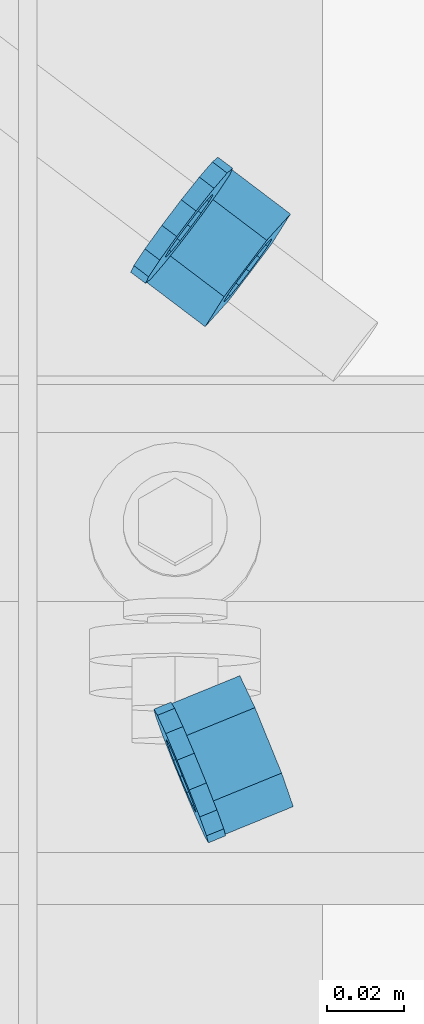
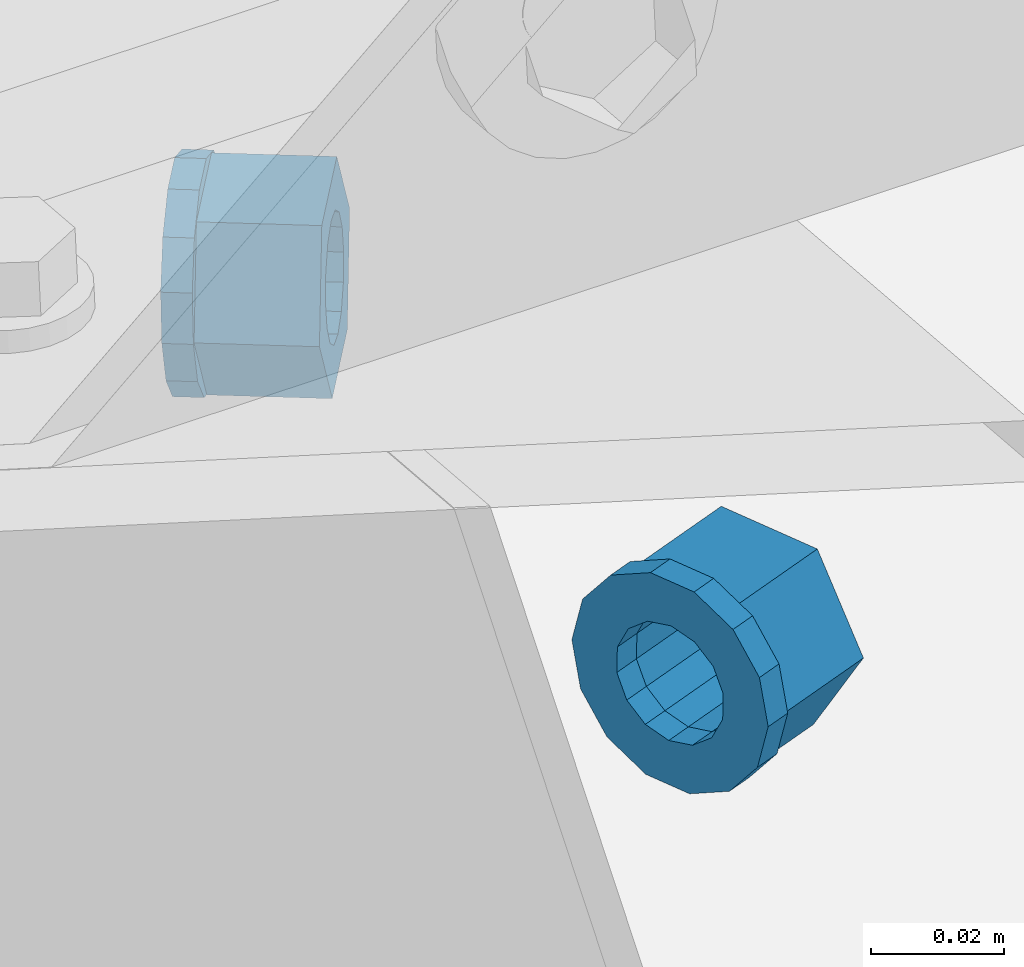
# One storey, part 46 of 185: 4 beams, 4 elements without a shape of their own.
"""IFC2X3 building model written with IfcOpenShell, lengths in millimetres."""

import ifcopenshell
import ifcopenshell.guid

model = None  # the IFC model being written
_history = None  # IfcOwnerHistory: only IFC2X3 demands one
_inside = {}  # id of a spatial element -> (the spatial element, [elements in it])
_under = {}  # id of a project, library or spatial element -> (it, [spatial elements below it])
_declared = {}  # id of a project -> (the project, [libraries it declares])
_typed = {}  # id of a type object -> (the type object, [elements of that type])
_made_of = {}  # id of a material, layer set ... -> (it, [elements and type objects made of it])


def new_model(schema):
    """Start an empty IFC model of exactly this schema.

    Asked for "IFC4X3", IfcOpenShell would pick the latest addendum, in which some entities
    have other attributes; the version numbers below select the first issue.
    IFC2X3 requires an IfcOwnerHistory on every rooted entity: one is made here for all.
    """
    global model, _history
    if schema == "IFC4X3":
        model = ifcopenshell.file(schema_version=(4, 3, 0, 0))
    else:
        model = ifcopenshell.file(schema=schema)
    _inside.clear()
    _under.clear()
    _declared.clear()
    _typed.clear()
    _made_of.clear()
    _history = None
    if model.schema == "IFC2X3":
        org = make("IfcOrganization", Name="unknown")
        user = make(
            "IfcPersonAndOrganization",
            ThePerson=make("IfcPerson", FamilyName="unknown"),
            TheOrganization=org,
        )
        app = make(
            "IfcApplication",
            ApplicationDeveloper=org,
            Version="unknown",
            ApplicationFullName="unknown",
            ApplicationIdentifier="unknown",
        )
        _history = make(
            "IfcOwnerHistory",
            OwningUser=user,
            OwningApplication=app,
            ChangeAction="ADDED",
            CreationDate=0,
        )
    return model


def make(cls, **values):
    """One entity of the class cls with the attributes given. An attribute that is None is left unset."""
    return model.create_entity(
        cls, **{name: value for name, value in values.items() if value is not None}
    )


def rooted(cls, **values):
    """An entity with a GlobalId (a new one), such as an element, a storey or a relation."""
    return make(cls, GlobalId=ifcopenshell.guid.new(), OwnerHistory=_history, **values)


def si_unit(unit_type, name, prefix=None):
    """IfcSIUnit, for example si_unit("LENGTHUNIT", "METRE", prefix="MILLI")."""
    return make("IfcSIUnit", UnitType=unit_type, Prefix=prefix, Name=name)


def assignment(units):
    """IfcUnitAssignment: the units of a project."""
    return None if units is None else make("IfcUnitAssignment", Units=units)


def point(xyz):
    """IfcCartesianPoint."""
    return None if xyz is None else make("IfcCartesianPoint", Coordinates=xyz)


def direction(xyz):
    """IfcDirection."""
    return None if xyz is None else make("IfcDirection", DirectionRatios=xyz)


def frame(location, z_axis=None, x_axis=None):
    """IfcAxis2Placement3D, a coordinate frame: its origin and axes. An axis left out is left unset."""
    return make(
        "IfcAxis2Placement3D",
        Location=point(location),
        Axis=direction(z_axis),
        RefDirection=direction(x_axis),
    )


def origin_with_axes():
    """The frame at (0, 0, 0) with the z axis (0, 0, 1) and the x axis (1, 0, 0) written out."""
    return frame((0.0, 0.0, 0.0), z_axis=(0.0, 0.0, 1.0), x_axis=(1.0, 0.0, 0.0))


def place(relative_to, where):
    """IfcLocalPlacement: puts the frame where relative to a parent placement (None: the world)."""
    return make(
        "IfcLocalPlacement", PlacementRelTo=relative_to, RelativePlacement=where
    )


def context(
    kind, dimensions, precision=None, world=None, true_north=None, identifier=None
):
    """IfcGeometricRepresentationContext, for example the 3D "Model" context."""
    return make(
        "IfcGeometricRepresentationContext",
        ContextIdentifier=identifier,
        ContextType=kind,
        CoordinateSpaceDimension=dimensions,
        Precision=precision,
        WorldCoordinateSystem=world,
        TrueNorth=true_north,
    )


def subcontext(parent, identifier, kind, view, scale=None):
    """IfcGeometricRepresentationSubContext, for example "Body" below "Model"."""
    return make(
        "IfcGeometricRepresentationSubContext",
        ContextIdentifier=identifier,
        ContextType=kind,
        ParentContext=parent,
        TargetScale=scale,
        TargetView=view,
    )


def project(units=None, contexts=None):
    """IfcProject with its units and contexts."""
    return rooted(
        "IfcProject",
        Name="project",
        RepresentationContexts=contexts,
        UnitsInContext=assignment(units),
    )


def spatial(cls, under=None, at=None, **own):
    """A site, building, storey or space (cls), placed at a placement, below another one or the project."""
    s = rooted(cls, ObjectPlacement=at, **own)
    if under is not None:
        _under.setdefault(under.id(), (under, []))[1].append(s)
    return s


def polyline(points):
    """IfcPolyline through the points."""
    return make("IfcPolyline", Points=[point(p) for p in points])


def outline(outer, holes=None, kind="AREA"):
    """IfcArbitraryClosedProfileDef: a profile drawn as a closed curve; with holes, ...WithVoids."""
    if holes is None:
        return make("IfcArbitraryClosedProfileDef", ProfileType=kind, OuterCurve=outer)
    return make(
        "IfcArbitraryProfileDefWithVoids",
        ProfileType=kind,
        OuterCurve=outer,
        InnerCurves=holes,
    )


def extrude(swept, where, along, depth):
    """IfcExtrudedAreaSolid: the profile swept, set in the frame where, extruded along a direction by depth."""
    return make(
        "IfcExtrudedAreaSolid",
        SweptArea=swept,
        Position=where,
        ExtrudedDirection=direction(along),
        Depth=depth,
    )


def shape(context_of_items, identifier, shape_type, items):
    """IfcShapeRepresentation: the items that make up one representation, for example the "Body"."""
    return make(
        "IfcShapeRepresentation",
        ContextOfItems=context_of_items,
        RepresentationIdentifier=identifier,
        RepresentationType=shape_type,
        Items=items,
    )


def material(Name=None, Category=None):
    """IfcMaterial."""
    return make("IfcMaterial", Name=Name, Category=Category)


def made_of(thing, what):
    """Note that an element or type object is made of a material, layer set ...; save() writes the relation."""
    if what is not None:
        _made_of.setdefault(what.id(), (what, []))[1].append(thing)
    return thing


def type_object(cls, material=None, **own):
    """A type object (cls), such as IfcWallType, which elements share."""
    return made_of(rooted(cls, **own), material)


def element(
    cls,
    number,
    at=None,
    inside=None,
    cuts=None,
    type_object=None,
    material=None,
    context=None,
    identifier="Body",
    shape_type=None,
    held_by="IfcProductDefinitionShape",
    body=None,
    shapes=None,
    **own,
):
    """One element of the class cls, such as IfcWall. Its Tag is "e" and its number.

    at: its placement. inside: the storey or other place that contains it. cuts: it is an
    opening in that element (IfcRelVoidsElement). A single representation is given by context,
    identifier, shape_type and body (its items); several are given by shapes. held_by: the class
    of the entity that holds the representations. save() writes the other relations.
    """
    e = rooted(cls, Tag="e%d" % number, ObjectPlacement=at, **own)
    if body is not None:
        shapes = [shape(context, identifier, shape_type, body)]
    if shapes is not None:
        e.Representation = make(held_by, Representations=shapes)
    if inside is not None:
        _inside.setdefault(inside.id(), (inside, []))[1].append(e)
    if cuts is not None:
        rooted(
            "IfcRelVoidsElement", RelatingBuildingElement=cuts, RelatedOpeningElement=e
        )
    if type_object is not None:
        _typed.setdefault(type_object.id(), (type_object, []))[1].append(e)
    return made_of(e, material)


def aggregate(whole, parts):
    """IfcRelAggregates: a whole, such as a stair, and the parts it consists of."""
    return rooted("IfcRelAggregates", RelatingObject=whole, RelatedObjects=parts)


def save(model, path):
    """Write the relations noted so far, then the file.

    IfcRelAggregates (storeys below a building ...), IfcRelContainedInSpatialStructure (elements
    in a storey), IfcRelDefinesByType, IfcRelAssociatesMaterial and IfcRelDeclares: one each for
    every whole, place, type object, material and project.
    """
    for whole, parts in _under.values():
        aggregate(whole, parts)
    for where, things in _inside.values():
        rooted(
            "IfcRelContainedInSpatialStructure",
            RelatedElements=things,
            RelatingStructure=where,
        )
    for kind, things in _typed.values():
        rooted("IfcRelDefinesByType", RelatedObjects=things, RelatingType=kind)
    for what, things in _made_of.values():
        rooted("IfcRelAssociatesMaterial", RelatedObjects=things, RelatingMaterial=what)
    for by, libraries in _declared.values():
        rooted("IfcRelDeclares", RelatingContext=by, RelatedDefinitions=libraries)
    model.write(path)


model = new_model("IFC2X3")

# Units and contexts
model_context = context("Model", 3, precision=1e-05, world=origin_with_axes())
body_context = subcontext(model_context, "Body", "Model", "MODEL_VIEW")
ifc_project = project(units=[si_unit("LENGTHUNIT", "METRE", prefix="MILLI"), si_unit("AREAUNIT", "SQUARE_METRE"), si_unit("VOLUMEUNIT", "CUBIC_METRE"), si_unit("MASSUNIT", "GRAM", prefix="KILO"), si_unit("TIMEUNIT", "SECOND"), si_unit("PLANEANGLEUNIT", "RADIAN"), si_unit("SOLIDANGLEUNIT", "STERADIAN"), si_unit("THERMODYNAMICTEMPERATUREUNIT", "DEGREE_CELSIUS"), si_unit("LUMINOUSINTENSITYUNIT", "LUMEN")], contexts=[model_context])

# Site, building, storey
site_placement = place(None, origin_with_axes())
site = spatial("IfcSite", under=ifc_project, at=site_placement, Name="Undefined", CompositionType="ELEMENT")
building_placement = place(site_placement, origin_with_axes())
building = spatial("IfcBuilding", under=site, at=building_placement, Name="Undefined", CompositionType="ELEMENT")
storey_placement = place(building_placement, origin_with_axes())
storey = spatial("IfcBuildingStorey", under=building, at=storey_placement, Name="Undefined", CompositionType="ELEMENT", Elevation=0.0)

# Assembly, beam
assembly_1_placement = place(storey_placement, origin_with_axes())
assembly_1 = element("IfcElementAssembly", 1, at=assembly_1_placement, inside=storey, Name="Steel Assembly", AssemblyPlace="NOTDEFINED", PredefinedType="RIGID_FRAME")
ifc_material = material(Name="STEEL/55")
beam_type_1 = type_object("IfcBeamType", Name="3/4_HEAVY_HEX_NUT", PredefinedType="NOTDEFINED")
beam_1_placement = place(assembly_1_placement, frame((37763.0751335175, 19301.4769855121, 6891.68541323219), z_axis=(0.0287626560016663, 0.0127846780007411, 0.999504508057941), x_axis=(0.925462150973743, 0.377531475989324, -0.0314609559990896)))
beam_1 = element("IfcBeam", 2, at=beam_1_placement, type_object=beam_type_1, material=ifc_material, Name="3/4 H HEX NUT A563", ObjectType="3/4_HEAVY_HEX_NUT", context=body_context, shape_type="SweptSolid", body=[
    extrude(outline(polyline([(9.13000011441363, -15.810000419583), (-9.13000011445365, -15.810000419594), (-18.2600002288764, 1.54614099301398e-11), (-9.13000011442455, 15.8100004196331), (9.13000011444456, 15.8100004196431), (18.2600002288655, 3.36513039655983e-11), (9.13000011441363, -15.810000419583)]), holes=[polyline([(-8.06850066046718, 6.43441456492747), (-10.061255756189, 2.29641597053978), (-10.0612557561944, -2.29641597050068), (-8.06850066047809, -6.43441456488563), (-4.47768005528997, -9.29799844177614), (-1.09139364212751e-11, -10.3199996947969), (4.47768005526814, -9.29799844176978), (8.0685006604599, -6.43441456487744), (10.0612557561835, -2.29641597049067), (10.0612557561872, 2.2964159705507), (8.06850066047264, 6.43441456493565), (4.47768005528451, 9.29799844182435), (7.27595761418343e-12, 10.319999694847), (-4.47768005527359, 9.2979984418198), (-8.06850066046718, 6.43441456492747)])]), frame((19.0500000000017, 0.0, 2.58175642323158e-19), z_axis=(-1.0, 0.0, 0.0), x_axis=(0.0, -1.0, 0.0)), (0.0, 0.0, 1.0), 19.1),
])
aggregate(assembly_1, [beam_1])

assembly_2_placement = place(storey_placement, origin_with_axes())
assembly_2 = element("IfcElementAssembly", 3, at=assembly_2_placement, inside=storey, Name="Steel Assembly", AssemblyPlace="NOTDEFINED", PredefinedType="RIGID_FRAME")
beam_2_placement = place(assembly_2_placement, frame((37760.7089450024, 19441.7536639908, 6879.99568675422), z_axis=(0.0397310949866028, -0.0307690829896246, -0.998736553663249), x_axis=(0.796162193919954, -0.602993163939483, 0.0502494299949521)))
beam_2 = element("IfcBeam", 4, at=beam_2_placement, type_object=beam_type_1, material=ifc_material, Name="3/4 H HEX NUT A563", ObjectType="3/4_HEAVY_HEX_NUT", context=body_context, shape_type="SweptSolid", body=[
    extrude(outline(polyline([(9.13000011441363, -15.810000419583), (-9.13000011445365, -15.810000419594), (-18.2600002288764, 1.54614099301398e-11), (-9.13000011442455, 15.8100004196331), (9.13000011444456, 15.8100004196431), (18.2600002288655, 3.36513039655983e-11), (9.13000011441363, -15.810000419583)]), holes=[polyline([(-8.06850066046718, 6.43441456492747), (-10.061255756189, 2.29641597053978), (-10.0612557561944, -2.29641597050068), (-8.06850066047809, -6.43441456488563), (-4.47768005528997, -9.29799844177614), (-1.09139364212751e-11, -10.3199996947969), (4.47768005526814, -9.29799844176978), (8.0685006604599, -6.43441456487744), (10.0612557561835, -2.29641597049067), (10.0612557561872, 2.2964159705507), (8.06850066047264, 6.43441456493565), (4.47768005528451, 9.29799844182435), (7.27595761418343e-12, 10.319999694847), (-4.47768005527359, 9.2979984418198), (-8.06850066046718, 6.43441456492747)])]), frame((19.0500000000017, 0.0, 2.58175642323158e-19), z_axis=(-1.0, 0.0, 0.0), x_axis=(0.0, -1.0, 0.0)), (0.0, 0.0, 1.0), 19.0),
])
aggregate(assembly_2, [beam_2])

assembly_3_placement = place(storey_placement, origin_with_axes())
assembly_3 = element("IfcElementAssembly", 5, at=assembly_3_placement, inside=storey, Name="Steel Assembly", AssemblyPlace="NOTDEFINED", PredefinedType="RIGID_FRAME")
beam_type_2 = type_object("IfcBeamType", Name="3/4_WASHER", PredefinedType="NOTDEFINED")
beam_3_placement = place(assembly_3_placement, frame((37758.6676200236, 19299.6789918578, 6891.83524603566), z_axis=(0.0287626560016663, 0.0127846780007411, 0.999504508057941), x_axis=(0.925462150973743, 0.377531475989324, -0.0314609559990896)))
beam_3 = element("IfcBeam", 6, at=beam_3_placement, type_object=beam_type_2, material=ifc_material, Name="3/4 WASHER F844", ObjectType="3/4_WASHER", context=body_context, shape_type="SweptSolid", body=[
    extrude(outline(polyline([(-11.6280845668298, -14.5811568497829), (-16.8030690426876, -8.09193156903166), (-18.649999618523, -4.54747350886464e-12), (-16.8030690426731, 8.09193156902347), (-11.6280845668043, 14.5811568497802), (-4.15001533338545, 18.1824051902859), (4.15001533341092, 18.1824051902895), (11.628084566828, 14.5811568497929), (16.8030690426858, 8.09193156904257), (18.6499996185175, 1.45519152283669e-11), (16.8030690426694, -8.09193156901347), (11.6280845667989, -14.5811568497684), (4.15001533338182, -18.182405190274), (-4.15001533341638, -18.1824051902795), (-11.6280845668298, -14.5811568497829)]), holes=[polyline([(-8.06850066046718, 6.43441456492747), (-10.061255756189, 2.29641597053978), (-10.0612557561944, -2.29641597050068), (-8.06850066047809, -6.43441456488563), (-4.47768005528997, -9.29799844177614), (-1.09139364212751e-11, -10.3199996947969), (4.47768005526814, -9.29799844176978), (8.0685006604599, -6.43441456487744), (10.0612557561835, -2.29641597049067), (10.0612557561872, 2.2964159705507), (8.06850066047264, 6.43441456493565), (4.47768005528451, 9.29799844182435), (7.27595761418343e-12, 10.319999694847), (-4.47768005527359, 9.2979984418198), (-8.06850066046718, 6.43441456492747)])]), frame((4.76250000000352, 2.6437185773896e-16, 5.6843418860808e-14), z_axis=(-1.0, 0.0, 0.0), x_axis=(0.0, -1.0, 0.0)), (0.0, 0.0, 1.0), 4.8),
])
aggregate(assembly_3, [beam_3])

assembly_4_placement = place(storey_placement, origin_with_axes())
assembly_4 = element("IfcElementAssembly", 7, at=assembly_4_placement, inside=storey, Name="Steel Assembly", AssemblyPlace="NOTDEFINED", PredefinedType="RIGID_FRAME")
beam_4_placement = place(assembly_4_placement, frame((37756.917222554, 19444.6254189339, 6879.75637384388), z_axis=(0.0397310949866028, -0.0307690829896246, -0.998736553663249), x_axis=(0.796162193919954, -0.602993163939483, 0.0502494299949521)))
beam_4 = element("IfcBeam", 8, at=beam_4_placement, type_object=beam_type_2, material=ifc_material, Name="3/4 WASHER F844", ObjectType="3/4_WASHER", context=body_context, shape_type="SweptSolid", body=[
    extrude(outline(polyline([(-11.6280845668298, -14.5811568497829), (-16.8030690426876, -8.09193156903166), (-18.649999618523, -4.54747350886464e-12), (-16.8030690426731, 8.09193156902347), (-11.6280845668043, 14.5811568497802), (-4.15001533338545, 18.1824051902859), (4.15001533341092, 18.1824051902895), (11.628084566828, 14.5811568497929), (16.8030690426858, 8.09193156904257), (18.6499996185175, 1.45519152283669e-11), (16.8030690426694, -8.09193156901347), (11.6280845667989, -14.5811568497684), (4.15001533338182, -18.182405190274), (-4.15001533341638, -18.1824051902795), (-11.6280845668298, -14.5811568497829)]), holes=[polyline([(-8.06850066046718, 6.43441456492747), (-10.061255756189, 2.29641597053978), (-10.0612557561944, -2.29641597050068), (-8.06850066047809, -6.43441456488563), (-4.47768005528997, -9.29799844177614), (-1.09139364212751e-11, -10.3199996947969), (4.47768005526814, -9.29799844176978), (8.0685006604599, -6.43441456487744), (10.0612557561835, -2.29641597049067), (10.0612557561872, 2.2964159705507), (8.06850066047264, 6.43441456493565), (4.47768005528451, 9.29799844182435), (7.27595761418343e-12, 10.319999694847), (-4.47768005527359, 9.2979984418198), (-8.06850066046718, 6.43441456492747)])]), frame((4.76250000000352, 2.6437185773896e-16, 5.6843418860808e-14), z_axis=(-1.0, 0.0, 0.0), x_axis=(0.0, -1.0, 0.0)), (0.0, 0.0, 1.0), 4.8),
])
aggregate(assembly_4, [beam_4])

save(model, "model.ifc")
